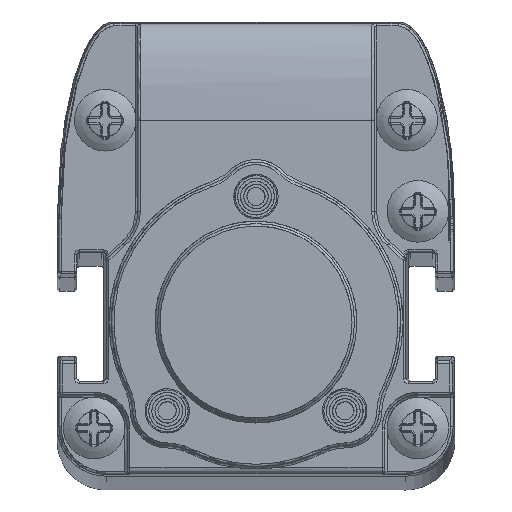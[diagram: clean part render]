
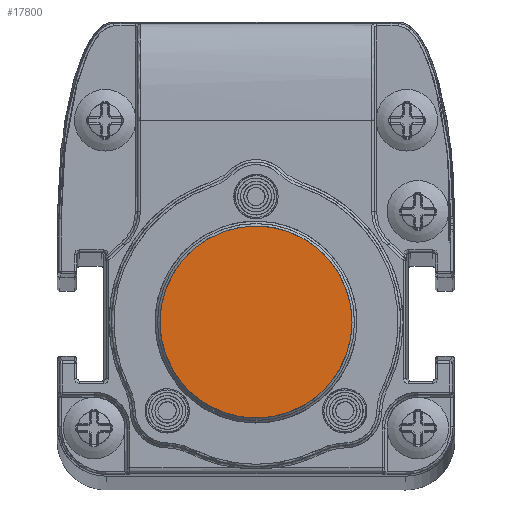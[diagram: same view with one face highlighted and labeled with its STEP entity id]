
A CAD part, top view. The second image highlights one B-rep face of the part: STEP entity #17800.
In plain terms, the highlighted planar face has unit normal (0, 0, 1).
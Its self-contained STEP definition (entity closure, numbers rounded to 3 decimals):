
#15073=B_SPLINE_CURVE_WITH_KNOTS('',3,(#62390,#62391,#62392,#62393,#62394,
#62395,#62396,#62397,#62398,#62399,#62400,#62401,#62402,#62403,#62404,#62405,
#62406,#62407,#62408,#62409,#62410,#62411,#62412,#62413,#62414,#62415,#62416,
#62417,#62418,#62419,#62420,#62421,#62422,#62423,#62424,#62425,#62426,#62427,
#62428,#62429,#62430,#62431,#62432,#62433,#62434,#62435,#62436,#62437,#62438,
#62439,#62440,#62441,#62442,#62443,#62444,#62445,#62446,#62447,#62448,#62449,
#62450,#62451,#62452,#62453,#62454,#62455,#62456,#62457,#62458,#62459,#62460,
#62461,#62462,#62463,#62464,#62465,#62466,#62467,#62468,#62469,#62470,#62471,
#62472,#62473,#62474,#62475,#62476,#62477,#62478,#62479,#62480,#62481,#62482,
#62483,#62484,#62485,#62486,#62487,#62488,#62489,#62490,#62491,#62492),
 .UNSPECIFIED.,.T.,.F.,(1,3,3,3,3,3,3,3,3,3,3,3,3,3,3,3,3,3,3,3,3,3,3,3,
3,3,3,3,3,3,3,3,3,3,3,3,1),(-0.029,0.,0.029,0.059,
0.088,0.118,0.147,0.176,
0.206,0.235,0.265,0.294,
0.324,0.353,0.382,0.412,
0.441,0.471,0.5,0.529,0.559,
0.588,0.618,0.647,0.676,
0.706,0.735,0.765,0.794,
0.824,0.853,0.882,0.912,
0.941,0.971,1.,1.029),.UNSPECIFIED.);
#17800=ADVANCED_FACE('',(#19775),#18696,.T.);
#18696=PLANE('',#42899);
#19775=FACE_OUTER_BOUND('',#21231,.T.);
#21231=EDGE_LOOP('',(#27440));
#27440=ORIENTED_EDGE('',*,*,#36311,.T.);
#31438=VERTEX_POINT('',#62493);
#36311=EDGE_CURVE('',#31438,#31438,#15073,.T.);
#42899=AXIS2_PLACEMENT_3D('',#62494,#46801,#46802);
#46801=DIRECTION('',(0.,0.,1.));
#46802=DIRECTION('',(1.,0.,0.));
#62390=CARTESIAN_POINT('',(7.8,0.,683.24));
#62391=CARTESIAN_POINT('',(7.8,0.465,683.24));
#62392=CARTESIAN_POINT('',(7.759,0.925,683.24));
#62393=CARTESIAN_POINT('',(7.679,1.376,683.24));
#62394=CARTESIAN_POINT('',(7.638,1.601,683.24));
#62395=CARTESIAN_POINT('',(7.588,1.825,683.24));
#62396=CARTESIAN_POINT('',(7.527,2.047,683.24));
#62397=CARTESIAN_POINT('',(7.466,2.269,683.24));
#62398=CARTESIAN_POINT('',(7.407,2.458,683.24));
#62399=CARTESIAN_POINT('',(7.315,2.708,683.24));
#62400=CARTESIAN_POINT('',(7.129,3.209,683.24));
#62401=CARTESIAN_POINT('',(6.898,3.683,683.24));
#62402=CARTESIAN_POINT('',(6.62,4.128,683.24));
#62403=CARTESIAN_POINT('',(6.343,4.573,683.24));
#62404=CARTESIAN_POINT('',(6.043,4.965,683.24));
#62405=CARTESIAN_POINT('',(5.651,5.376,683.24));
#62406=CARTESIAN_POINT('',(4.868,6.2,683.24));
#62407=CARTESIAN_POINT('',(3.912,6.837,683.24));
#62408=CARTESIAN_POINT('',(2.89,7.245,683.24));
#62409=CARTESIAN_POINT('',(2.378,7.449,683.24));
#62410=CARTESIAN_POINT('',(1.856,7.597,683.24));
#62411=CARTESIAN_POINT('',(1.324,7.689,683.24));
#62412=CARTESIAN_POINT('',(1.058,7.734,683.24));
#62413=CARTESIAN_POINT('',(0.79,7.766,683.24));
#62414=CARTESIAN_POINT('',(0.52,7.784,683.24));
#62415=CARTESIAN_POINT('',(0.249,7.801,683.24));
#62416=CARTESIAN_POINT('',(-0.055,7.804,683.24));
#62417=CARTESIAN_POINT('',(-0.3,7.794,683.24));
#62418=CARTESIAN_POINT('',(-0.79,7.775,683.24));
#62419=CARTESIAN_POINT('',(-1.271,7.712,683.24));
#62420=CARTESIAN_POINT('',(-1.742,7.604,683.24));
#62421=CARTESIAN_POINT('',(-2.213,7.496,683.24));
#62422=CARTESIAN_POINT('',(-2.713,7.327,683.24));
#62423=CARTESIAN_POINT('',(-3.123,7.147,683.24));
#62424=CARTESIAN_POINT('',(-3.534,6.968,683.24));
#62425=CARTESIAN_POINT('',(-3.924,6.757,683.24));
#62426=CARTESIAN_POINT('',(-4.293,6.513,683.24));
#62427=CARTESIAN_POINT('',(-4.477,6.392,683.24));
#62428=CARTESIAN_POINT('',(-4.656,6.262,683.24));
#62429=CARTESIAN_POINT('',(-4.83,6.125,683.24));
#62430=CARTESIAN_POINT('',(-5.004,5.987,683.24));
#62431=CARTESIAN_POINT('',(-5.15,5.864,683.24));
#62432=CARTESIAN_POINT('',(-5.337,5.688,683.24));
#62433=CARTESIAN_POINT('',(-5.712,5.337,683.24));
#62434=CARTESIAN_POINT('',(-6.047,4.956,683.24));
#62435=CARTESIAN_POINT('',(-6.341,4.545,683.24));
#62436=CARTESIAN_POINT('',(-6.635,4.134,683.24));
#62437=CARTESIAN_POINT('',(-6.869,3.738,683.24));
#62438=CARTESIAN_POINT('',(-7.102,3.226,683.24));
#62439=CARTESIAN_POINT('',(-7.567,2.203,683.24));
#62440=CARTESIAN_POINT('',(-7.8,1.124,683.24));
#62441=CARTESIAN_POINT('',(-7.8,0.,683.24));
#62442=CARTESIAN_POINT('',(-7.8,-0.562,683.24));
#62443=CARTESIAN_POINT('',(-7.742,-1.113,683.24));
#62444=CARTESIAN_POINT('',(-7.625,-1.651,683.24));
#62445=CARTESIAN_POINT('',(-7.509,-2.189,683.24));
#62446=CARTESIAN_POINT('',(-7.314,-2.758,683.24));
#62447=CARTESIAN_POINT('',(-7.102,-3.226,683.24));
#62448=CARTESIAN_POINT('',(-6.889,-3.694,683.24));
#62449=CARTESIAN_POINT('',(-6.636,-4.134,683.24));
#62450=CARTESIAN_POINT('',(-6.341,-4.544,683.24));
#62451=CARTESIAN_POINT('',(-6.194,-4.75,683.24));
#62452=CARTESIAN_POINT('',(-6.037,-4.947,683.24));
#62453=CARTESIAN_POINT('',(-5.87,-5.138,683.24));
#62454=CARTESIAN_POINT('',(-5.702,-5.329,683.24));
#62455=CARTESIAN_POINT('',(-5.5,-5.535,683.24));
#62456=CARTESIAN_POINT('',(-5.337,-5.688,683.24));
#62457=CARTESIAN_POINT('',(-5.01,-5.995,683.24));
#62458=CARTESIAN_POINT('',(-4.662,-6.27,683.24));
#62459=CARTESIAN_POINT('',(-4.293,-6.513,683.24));
#62460=CARTESIAN_POINT('',(-3.924,-6.756,683.24));
#62461=CARTESIAN_POINT('',(-3.573,-6.951,683.24));
#62462=CARTESIAN_POINT('',(-3.123,-7.147,683.24));
#62463=CARTESIAN_POINT('',(-2.674,-7.344,683.24));
#62464=CARTESIAN_POINT('',(-2.213,-7.496,683.24));
#62465=CARTESIAN_POINT('',(-1.743,-7.604,683.24));
#62466=CARTESIAN_POINT('',(-1.507,-7.658,683.24));
#62467=CARTESIAN_POINT('',(-1.269,-7.701,683.24));
#62468=CARTESIAN_POINT('',(-1.029,-7.732,683.24));
#62469=CARTESIAN_POINT('',(-0.789,-7.764,683.24));
#62470=CARTESIAN_POINT('',(-0.575,-7.784,683.24));
#62471=CARTESIAN_POINT('',(-0.3,-7.794,683.24));
#62472=CARTESIAN_POINT('',(0.801,-7.837,683.24));
#62473=CARTESIAN_POINT('',(1.834,-7.666,683.24));
#62474=CARTESIAN_POINT('',(2.89,-7.245,683.24));
#62475=CARTESIAN_POINT('',(3.417,-7.035,683.24));
#62476=CARTESIAN_POINT('',(3.912,-6.774,683.24));
#62477=CARTESIAN_POINT('',(4.372,-6.462,683.24));
#62478=CARTESIAN_POINT('',(4.833,-6.15,683.24));
#62479=CARTESIAN_POINT('',(5.283,-5.763,683.24));
#62480=CARTESIAN_POINT('',(5.651,-5.376,683.24));
#62481=CARTESIAN_POINT('',(6.019,-4.989,683.24));
#62482=CARTESIAN_POINT('',(6.342,-4.573,683.24));
#62483=CARTESIAN_POINT('',(6.62,-4.128,683.24));
#62484=CARTESIAN_POINT('',(6.759,-3.906,683.24));
#62485=CARTESIAN_POINT('',(6.886,-3.676,683.24));
#62486=CARTESIAN_POINT('',(7.002,-3.44,683.24));
#62487=CARTESIAN_POINT('',(7.117,-3.203,683.24));
#62488=CARTESIAN_POINT('',(7.234,-2.926,683.24));
#62489=CARTESIAN_POINT('',(7.315,-2.708,683.24));
#62490=CARTESIAN_POINT('',(7.638,-1.835,683.24));
#62491=CARTESIAN_POINT('',(7.8,-0.933,683.24));
#62492=CARTESIAN_POINT('',(7.8,0.,683.24));
#62493=CARTESIAN_POINT('',(7.8,0.,683.24));
#62494=CARTESIAN_POINT('',(-8.9,-8.81,683.24));
